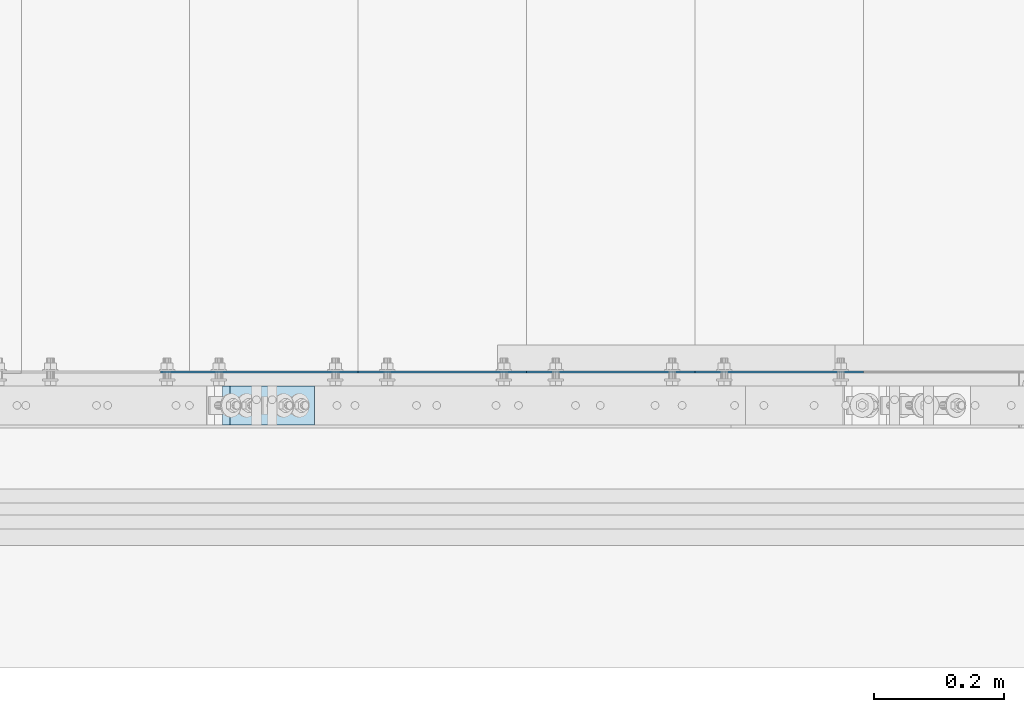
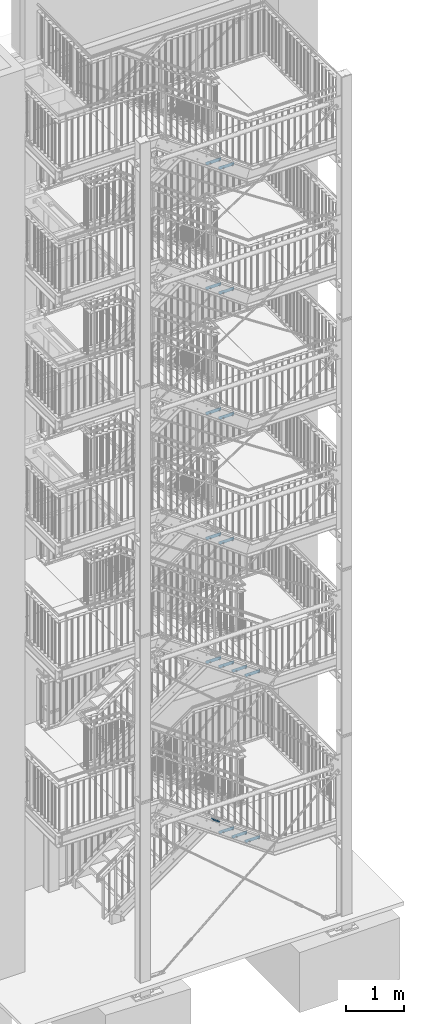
# One storey, part 171 of 831: 16 plates, 32 openings.
"""IFC2X3 building model written with IfcOpenShell, lengths in millimetres."""

from ifc_helpers import new_model, entity, si_unit, converted_unit, point, frame, frame_2d, origin, origin_with_axes, origin_2d_with_axis, place, context, project, spatial, polyline, circle_curve, line_curve, trimmed, segment, composite_curve, circle, outline, extrude, material, layer, layer_set, element, save


model = new_model("IFC2X3")

# Units and contexts
model_context = context("Model", 3, precision=1e-09, world=origin_with_axes())
ifc_project = project(units=[si_unit("LENGTHUNIT", "METRE", prefix="MILLI"), si_unit("AREAUNIT", "SQUARE_METRE"), si_unit("VOLUMEUNIT", "CUBIC_METRE"), converted_unit("PLANEANGLEUNIT", "DEGREE", entity("IfcPlaneAngleMeasure", 0.01745329), si_unit("PLANEANGLEUNIT", "RADIAN"), dimensions=[0, 0, 0, 0, 0, 0, 0])], contexts=[model_context])

# Site, building, storey
site_placement = place(None, origin_with_axes())
site = spatial("IfcSite", under=ifc_project, at=site_placement, Name="Site", CompositionType="ELEMENT")
building_placement = place(site_placement, origin_with_axes())
building = spatial("IfcBuilding", under=site, at=building_placement, Name="Struktur 1", CompositionType="ELEMENT")
storey_placement = place(building_placement, origin_with_axes())
storey = spatial("IfcBuildingStorey", under=building, at=storey_placement, Name="Default Storey", CompositionType="ELEMENT", Elevation=0.0)

# Plate, openings
ifc_material = material(Name="S235JR")
ifc_layer_1 = layer(ifc_material, 20.0)
ifc_layer_set_1 = layer_set([ifc_layer_1], Name="S235JR")
plate_1_placement = place(None, frame((6327.345176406, 4496.736971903, 3110.531994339), z_axis=(0.579973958, 0.0, 0.814635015), x_axis=(0.814635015, 0.0, -0.579973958)))
plate_1 = element("IfcPlate", 1, at=plate_1_placement, inside=storey, material=ifc_layer_set_1, Name="Plate#509", ObjectType="Plate#509", context=model_context, shape_type="SweptSolid", body=[
    extrude(outline(polyline([(0.0, 0.0), (160.0, 0.0), (160.0, 60.0), (0.0, 60.0), (0.0, 0.0)])), origin_with_axes(), (0.0, 0.0, 1.0), 20.0),
])
opening_1_placement = place(plate_1_placement, frame((38.0, 37.001, 20.5), z_axis=(0.0, 0.0, 1.0), x_axis=(-1.0, 0.0, 0.0)))
element("IfcOpeningElement", 2, at=opening_1_placement, cuts=plate_1, ObjectType="Opening", context=model_context, shape_type="SweptSolid", body=[
    extrude(outline(composite_curve([segment(trimmed(line_curve((0.0, 0.0), (1.0, 0.0), 16.0), [point((0.0, 0.0))], [point((16.0, 0.0))], True, "CARTESIAN"), True, "CONTINUOUS"), segment(trimmed(circle_curve(frame_2d((16.0, 7.001), x_axis=(1.0, 0.0)), 7.001), [point((16.0, 0.0))], [point((16.0, 14.002))], True, "CARTESIAN"), True, "CONTINUOUS"), segment(trimmed(line_curve((16.0, 14.002), (-1.0, 0.0), 16.0), [point((16.0, 14.002))], [point((0.0, 14.002))], True, "CARTESIAN"), True, "CONTINUOUS"), segment(trimmed(circle_curve(frame_2d((0.0, 7.001), x_axis=(1.0, 0.0)), 7.001), [point((0.0, 14.002))], [point((0.0, 0.0))], True, "CARTESIAN"), True, "CONTINUOUS")], self_intersect=False)), origin(), (0.0, 0.0, -1.0), 21.0),
])
opening_2_placement = place(plate_1_placement, frame((138.0, 37.001, 20.5), z_axis=(0.0, 0.0, 1.0), x_axis=(-1.0, 0.0, 0.0)))
element("IfcOpeningElement", 3, at=opening_2_placement, cuts=plate_1, ObjectType="Opening", context=model_context, shape_type="SweptSolid", body=[
    extrude(outline(composite_curve([segment(trimmed(line_curve((0.0, 0.0), (1.0, 0.0), 16.0), [point((0.0, 0.0))], [point((16.0, 0.0))], True, "CARTESIAN"), True, "CONTINUOUS"), segment(trimmed(circle_curve(frame_2d((16.0, 7.001), x_axis=(1.0, 0.0)), 7.001), [point((16.0, 0.0))], [point((16.0, 14.002))], True, "CARTESIAN"), True, "CONTINUOUS"), segment(trimmed(line_curve((16.0, 14.002), (-1.0, 0.0), 16.0), [point((16.0, 14.002))], [point((0.0, 14.002))], True, "CARTESIAN"), True, "CONTINUOUS"), segment(trimmed(circle_curve(frame_2d((0.0, 7.001), x_axis=(1.0, 0.0)), 7.001), [point((0.0, 14.002))], [point((0.0, 0.0))], True, "CARTESIAN"), True, "CONTINUOUS")], self_intersect=False)), origin(), (0.0, 0.0, -1.0), 21.0),
])

ifc_layer_2 = layer(ifc_material, 3.0)
ifc_layer_set_2 = layer_set([ifc_layer_2], Name="S235JR")
plate_2_placement = place(None, frame((6796.713402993, 4576.736971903, 8864.0), z_axis=(0.0, 1.0, 0.0), x_axis=(0.0, 0.0, -1.0)))
plate_2 = element("IfcPlate", 4, at=plate_2_placement, inside=storey, material=ifc_layer_set_2, Name="Grate_Step#2", ObjectType="Grate_Step#2", context=model_context, shape_type="SweptSolid", body=[
    extrude(outline(polyline([(0.0, 0.0), (70.0, 0.0), (70.0, 275.0), (40.0, 305.0), (0.0, 305.0), (0.0, 0.0)])), origin_with_axes(), (0.0, 0.0, 1.0), 3.0),
])
opening_3_placement = place(plate_2_placement, frame((55.0, 215.0, 3.5), z_axis=(0.0, 0.0, -1.0), x_axis=(0.0, 1.0, 0.0)))
element("IfcOpeningElement", 5, at=opening_3_placement, cuts=plate_2, ObjectType="Opening", context=model_context, shape_type="SweptSolid", body=[
    extrude(outline(composite_curve([segment(trimmed(line_curve((-9.5, -7.001), (1.0, 0.0), 19.0), [point((-9.5, -7.001))], [point((9.5, -7.001))], True, "CARTESIAN"), True, "CONTINUOUS"), segment(trimmed(circle_curve(frame_2d((9.5, 0.0), x_axis=(1.0, 0.0)), 7.001), [point((9.5, -7.001))], [point((9.5, 7.001))], True, "CARTESIAN"), True, "CONTINUOUS"), segment(trimmed(line_curve((9.5, 7.001), (-1.0, 0.0), 19.0), [point((9.5, 7.001))], [point((-9.5, 7.001))], True, "CARTESIAN"), True, "CONTINUOUS"), segment(trimmed(circle_curve(frame_2d((-9.5, 0.0), x_axis=(1.0, 0.0)), 7.001), [point((-9.5, 7.001))], [point((-9.5, -7.001))], True, "CARTESIAN"), True, "CONTINUOUS")], self_intersect=False)), origin(), (0.0, 0.0, 1.0), 4.0),
])
opening_4_placement = place(plate_2_placement, frame((55.0, 35.0, 3.5), z_axis=(0.0, 0.0, -1.0), x_axis=(0.0, 1.0, 0.0)))
element("IfcOpeningElement", 6, at=opening_4_placement, cuts=plate_2, ObjectType="Opening", context=model_context, shape_type="SweptSolid", body=[
    extrude(circle(Radius=7.001, at=origin_2d_with_axis()), origin(), (0.0, 0.0, 1.0), 4.0),
])

plate_3_placement = place(None, frame((6536.713402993, 4576.736971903, 9052.0), z_axis=(0.0, 1.0, 0.0), x_axis=(0.0, 0.0, -1.0)))
plate_3 = element("IfcPlate", 7, at=plate_3_placement, inside=storey, material=ifc_layer_set_2, Name="Grate_Step#9", ObjectType="Grate_Step#9", context=model_context, shape_type="SweptSolid", body=[
    extrude(outline(polyline([(0.0, 0.0), (70.0, 0.0), (70.0, 275.0), (40.0, 305.0), (0.0, 305.0), (0.0, 0.0)])), origin_with_axes(), (0.0, 0.0, 1.0), 3.0),
])
opening_5_placement = place(plate_3_placement, frame((55.0, 215.0, 3.5), z_axis=(0.0, 0.0, -1.0), x_axis=(0.0, 1.0, 0.0)))
element("IfcOpeningElement", 8, at=opening_5_placement, cuts=plate_3, ObjectType="Opening", context=model_context, shape_type="SweptSolid", body=[
    extrude(outline(composite_curve([segment(trimmed(line_curve((-9.5, -7.001), (1.0, 0.0), 19.0), [point((-9.5, -7.001))], [point((9.5, -7.001))], True, "CARTESIAN"), True, "CONTINUOUS"), segment(trimmed(circle_curve(frame_2d((9.5, 0.0), x_axis=(1.0, 0.0)), 7.001), [point((9.5, -7.001))], [point((9.5, 7.001))], True, "CARTESIAN"), True, "CONTINUOUS"), segment(trimmed(line_curve((9.5, 7.001), (-1.0, 0.0), 19.0), [point((9.5, 7.001))], [point((-9.5, 7.001))], True, "CARTESIAN"), True, "CONTINUOUS"), segment(trimmed(circle_curve(frame_2d((-9.5, 0.0), x_axis=(1.0, 0.0)), 7.001), [point((-9.5, 7.001))], [point((-9.5, -7.001))], True, "CARTESIAN"), True, "CONTINUOUS")], self_intersect=False)), origin(), (0.0, 0.0, 1.0), 4.0),
])
opening_6_placement = place(plate_3_placement, frame((55.0, 35.0, 3.5), z_axis=(0.0, 0.0, -1.0), x_axis=(0.0, 1.0, 0.0)))
element("IfcOpeningElement", 9, at=opening_6_placement, cuts=plate_3, ObjectType="Opening", context=model_context, shape_type="SweptSolid", body=[
    extrude(circle(Radius=7.001, at=origin_2d_with_axis()), origin(), (0.0, 0.0, 1.0), 4.0),
])

plate_4_placement = place(None, frame((6796.713402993, 4576.736971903, 11493.1428574), z_axis=(0.0, 1.0, 0.0), x_axis=(0.0, 0.0, -1.0)))
plate_4 = element("IfcPlate", 10, at=plate_4_placement, inside=storey, material=ifc_layer_set_2, Name="Grate_Step#2", ObjectType="Grate_Step#2", context=model_context, shape_type="SweptSolid", body=[
    extrude(outline(polyline([(0.0, 0.0), (70.0, 0.0), (70.0, 275.0), (40.0, 305.0), (0.0, 305.0), (0.0, 0.0)])), origin_with_axes(), (0.0, 0.0, 1.0), 3.0),
])
opening_7_placement = place(plate_4_placement, frame((55.0, 35.0, 3.5), z_axis=(0.0, 0.0, -1.0), x_axis=(0.0, 1.0, 0.0)))
element("IfcOpeningElement", 11, at=opening_7_placement, cuts=plate_4, ObjectType="Opening", context=model_context, shape_type="SweptSolid", body=[
    extrude(circle(Radius=7.001, at=origin_2d_with_axis()), origin(), (0.0, 0.0, 1.0), 4.0),
])
opening_8_placement = place(plate_4_placement, frame((55.0, 215.0, 3.5), z_axis=(0.0, 0.0, -1.0), x_axis=(0.0, 1.0, 0.0)))
element("IfcOpeningElement", 12, at=opening_8_placement, cuts=plate_4, ObjectType="Opening", context=model_context, shape_type="SweptSolid", body=[
    extrude(outline(composite_curve([segment(trimmed(line_curve((-9.5, -7.001), (1.0, 0.0), 19.0), [point((-9.5, -7.001))], [point((9.5, -7.001))], True, "CARTESIAN"), True, "CONTINUOUS"), segment(trimmed(circle_curve(frame_2d((9.5, 0.0), x_axis=(1.0, 0.0)), 7.001), [point((9.5, -7.001))], [point((9.5, 7.001))], True, "CARTESIAN"), True, "CONTINUOUS"), segment(trimmed(line_curve((9.5, 7.001), (-1.0, 0.0), 19.0), [point((9.5, 7.001))], [point((-9.5, 7.001))], True, "CARTESIAN"), True, "CONTINUOUS"), segment(trimmed(circle_curve(frame_2d((-9.5, 0.0), x_axis=(1.0, 0.0)), 7.001), [point((-9.5, 7.001))], [point((-9.5, -7.001))], True, "CARTESIAN"), True, "CONTINUOUS")], self_intersect=False)), origin(), (0.0, 0.0, 1.0), 4.0),
])

plate_5_placement = place(None, frame((6536.713402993, 4576.736971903, 11680.7857145), z_axis=(0.0, 1.0, 0.0), x_axis=(0.0, 0.0, -1.0)))
plate_5 = element("IfcPlate", 13, at=plate_5_placement, inside=storey, material=ifc_layer_set_2, Name="Grate_Step#9", ObjectType="Grate_Step#9", context=model_context, shape_type="SweptSolid", body=[
    extrude(outline(polyline([(0.0, 0.0), (70.0, 0.0), (70.0, 275.0), (40.0, 305.0), (0.0, 305.0), (0.0, 0.0)])), origin_with_axes(), (0.0, 0.0, 1.0), 3.0),
])
opening_9_placement = place(plate_5_placement, frame((55.0, 215.0, 3.5), z_axis=(0.0, 0.0, -1.0), x_axis=(0.0, 1.0, 0.0)))
element("IfcOpeningElement", 14, at=opening_9_placement, cuts=plate_5, ObjectType="Opening", context=model_context, shape_type="SweptSolid", body=[
    extrude(outline(composite_curve([segment(trimmed(line_curve((-9.5, -7.001), (1.0, 0.0), 19.0), [point((-9.5, -7.001))], [point((9.5, -7.001))], True, "CARTESIAN"), True, "CONTINUOUS"), segment(trimmed(circle_curve(frame_2d((9.5, 0.0), x_axis=(1.0, 0.0)), 7.001), [point((9.5, -7.001))], [point((9.5, 7.001))], True, "CARTESIAN"), True, "CONTINUOUS"), segment(trimmed(line_curve((9.5, 7.001), (-1.0, 0.0), 19.0), [point((9.5, 7.001))], [point((-9.5, 7.001))], True, "CARTESIAN"), True, "CONTINUOUS"), segment(trimmed(circle_curve(frame_2d((-9.5, 0.0), x_axis=(1.0, 0.0)), 7.001), [point((-9.5, 7.001))], [point((-9.5, -7.001))], True, "CARTESIAN"), True, "CONTINUOUS")], self_intersect=False)), origin(), (0.0, 0.0, 1.0), 4.0),
])
opening_10_placement = place(plate_5_placement, frame((55.0, 35.0, 3.5), z_axis=(0.0, 0.0, -1.0), x_axis=(0.0, 1.0, 0.0)))
element("IfcOpeningElement", 15, at=opening_10_placement, cuts=plate_5, ObjectType="Opening", context=model_context, shape_type="SweptSolid", body=[
    extrude(circle(Radius=7.001, at=origin_2d_with_axis()), origin(), (0.0, 0.0, 1.0), 4.0),
])

plate_6_placement = place(None, frame((6796.713402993, 4576.736971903, 14124.7142858), z_axis=(0.0, 1.0, 0.0), x_axis=(0.0, 0.0, -1.0)))
plate_6 = element("IfcPlate", 16, at=plate_6_placement, inside=storey, material=ifc_layer_set_2, Name="Grate_Step#2", ObjectType="Grate_Step#2", context=model_context, shape_type="SweptSolid", body=[
    extrude(outline(polyline([(0.0, 0.0), (70.0, 0.0), (70.0, 275.0), (40.0, 305.0), (0.0, 305.0), (0.0, 0.0)])), origin_with_axes(), (0.0, 0.0, 1.0), 3.0),
])
opening_11_placement = place(plate_6_placement, frame((55.0, 35.0, 3.5), z_axis=(0.0, 0.0, -1.0), x_axis=(0.0, 1.0, 0.0)))
element("IfcOpeningElement", 17, at=opening_11_placement, cuts=plate_6, ObjectType="Opening", context=model_context, shape_type="SweptSolid", body=[
    extrude(circle(Radius=7.001, at=origin_2d_with_axis()), origin(), (0.0, 0.0, 1.0), 4.0),
])
opening_12_placement = place(plate_6_placement, frame((55.0, 215.0, 3.5), z_axis=(0.0, 0.0, -1.0), x_axis=(0.0, 1.0, 0.0)))
element("IfcOpeningElement", 18, at=opening_12_placement, cuts=plate_6, ObjectType="Opening", context=model_context, shape_type="SweptSolid", body=[
    extrude(outline(composite_curve([segment(trimmed(line_curve((-9.5, -7.001), (1.0, 0.0), 19.0), [point((-9.5, -7.001))], [point((9.5, -7.001))], True, "CARTESIAN"), True, "CONTINUOUS"), segment(trimmed(circle_curve(frame_2d((9.5, 0.0), x_axis=(1.0, 0.0)), 7.001), [point((9.5, -7.001))], [point((9.5, 7.001))], True, "CARTESIAN"), True, "CONTINUOUS"), segment(trimmed(line_curve((9.5, 7.001), (-1.0, 0.0), 19.0), [point((9.5, 7.001))], [point((-9.5, 7.001))], True, "CARTESIAN"), True, "CONTINUOUS"), segment(trimmed(circle_curve(frame_2d((-9.5, 0.0), x_axis=(1.0, 0.0)), 7.001), [point((-9.5, 7.001))], [point((-9.5, -7.001))], True, "CARTESIAN"), True, "CONTINUOUS")], self_intersect=False)), origin(), (0.0, 0.0, 1.0), 4.0),
])

plate_7_placement = place(None, frame((6536.713402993, 4576.736971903, 14312.9285715), z_axis=(0.0, 1.0, 0.0), x_axis=(0.0, 0.0, -1.0)))
plate_7 = element("IfcPlate", 19, at=plate_7_placement, inside=storey, material=ifc_layer_set_2, Name="Grate_Step#9", ObjectType="Grate_Step#9", context=model_context, shape_type="SweptSolid", body=[
    extrude(outline(polyline([(0.0, 0.0), (70.0, 0.0), (70.0, 275.0), (40.0, 305.0), (0.0, 305.0), (0.0, 0.0)])), origin_with_axes(), (0.0, 0.0, 1.0), 3.0),
])
opening_13_placement = place(plate_7_placement, frame((55.0, 215.0, 3.5), z_axis=(0.0, 0.0, -1.0), x_axis=(0.0, 1.0, 0.0)))
element("IfcOpeningElement", 20, at=opening_13_placement, cuts=plate_7, ObjectType="Opening", context=model_context, shape_type="SweptSolid", body=[
    extrude(outline(composite_curve([segment(trimmed(line_curve((-9.5, -7.001), (1.0, 0.0), 19.0), [point((-9.5, -7.001))], [point((9.5, -7.001))], True, "CARTESIAN"), True, "CONTINUOUS"), segment(trimmed(circle_curve(frame_2d((9.5, 0.0), x_axis=(1.0, 0.0)), 7.001), [point((9.5, -7.001))], [point((9.5, 7.001))], True, "CARTESIAN"), True, "CONTINUOUS"), segment(trimmed(line_curve((9.5, 7.001), (-1.0, 0.0), 19.0), [point((9.5, 7.001))], [point((-9.5, 7.001))], True, "CARTESIAN"), True, "CONTINUOUS"), segment(trimmed(circle_curve(frame_2d((-9.5, 0.0), x_axis=(1.0, 0.0)), 7.001), [point((-9.5, 7.001))], [point((-9.5, -7.001))], True, "CARTESIAN"), True, "CONTINUOUS")], self_intersect=False)), origin(), (0.0, 0.0, 1.0), 4.0),
])
opening_14_placement = place(plate_7_placement, frame((55.0, 35.0, 3.5), z_axis=(0.0, 0.0, -1.0), x_axis=(0.0, 1.0, 0.0)))
element("IfcOpeningElement", 21, at=opening_14_placement, cuts=plate_7, ObjectType="Opening", context=model_context, shape_type="SweptSolid", body=[
    extrude(circle(Radius=7.001, at=origin_2d_with_axis()), origin(), (0.0, 0.0, 1.0), 4.0),
])

plate_8_placement = place(None, frame((6796.713402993, 4576.736971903, 16751.1428574), z_axis=(0.0, 1.0, 0.0), x_axis=(0.0, 0.0, -1.0)))
plate_8 = element("IfcPlate", 22, at=plate_8_placement, inside=storey, material=ifc_layer_set_2, Name="Grate_Step#2", ObjectType="Grate_Step#2", context=model_context, shape_type="SweptSolid", body=[
    extrude(outline(polyline([(0.0, 0.0), (70.0, 0.0), (70.0, 275.0), (40.0, 305.0), (0.0, 305.0), (0.0, 0.0)])), origin_with_axes(), (0.0, 0.0, 1.0), 3.0),
])
opening_15_placement = place(plate_8_placement, frame((55.0, 215.0, 3.5), z_axis=(0.0, 0.0, -1.0), x_axis=(0.0, 1.0, 0.0)))
element("IfcOpeningElement", 23, at=opening_15_placement, cuts=plate_8, ObjectType="Opening", context=model_context, shape_type="SweptSolid", body=[
    extrude(outline(composite_curve([segment(trimmed(line_curve((-9.5, -7.001), (1.0, 0.0), 19.0), [point((-9.5, -7.001))], [point((9.5, -7.001))], True, "CARTESIAN"), True, "CONTINUOUS"), segment(trimmed(circle_curve(frame_2d((9.5, 0.0), x_axis=(1.0, 0.0)), 7.001), [point((9.5, -7.001))], [point((9.5, 7.001))], True, "CARTESIAN"), True, "CONTINUOUS"), segment(trimmed(line_curve((9.5, 7.001), (-1.0, 0.0), 19.0), [point((9.5, 7.001))], [point((-9.5, 7.001))], True, "CARTESIAN"), True, "CONTINUOUS"), segment(trimmed(circle_curve(frame_2d((-9.5, 0.0), x_axis=(1.0, 0.0)), 7.001), [point((-9.5, 7.001))], [point((-9.5, -7.001))], True, "CARTESIAN"), True, "CONTINUOUS")], self_intersect=False)), origin(), (0.0, 0.0, 1.0), 4.0),
])
opening_16_placement = place(plate_8_placement, frame((55.0, 35.0, 3.5), z_axis=(0.0, 0.0, -1.0), x_axis=(0.0, 1.0, 0.0)))
element("IfcOpeningElement", 24, at=opening_16_placement, cuts=plate_8, ObjectType="Opening", context=model_context, shape_type="SweptSolid", body=[
    extrude(circle(Radius=7.001, at=origin_2d_with_axis()), origin(), (0.0, 0.0, 1.0), 4.0),
])

plate_9_placement = place(None, frame((6536.713402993, 4576.736971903, 16938.2857145), z_axis=(0.0, 1.0, 0.0), x_axis=(0.0, 0.0, -1.0)))
plate_9 = element("IfcPlate", 25, at=plate_9_placement, inside=storey, material=ifc_layer_set_2, Name="Grate_Step#9", ObjectType="Grate_Step#9", context=model_context, shape_type="SweptSolid", body=[
    extrude(outline(polyline([(0.0, 0.0), (70.0, 0.0), (70.0, 275.0), (40.0, 305.0), (0.0, 305.0), (0.0, 0.0)])), origin_with_axes(), (0.0, 0.0, 1.0), 3.0),
])
opening_17_placement = place(plate_9_placement, frame((55.0, 35.0, 3.5), z_axis=(0.0, 0.0, -1.0), x_axis=(0.0, 1.0, 0.0)))
element("IfcOpeningElement", 26, at=opening_17_placement, cuts=plate_9, ObjectType="Opening", context=model_context, shape_type="SweptSolid", body=[
    extrude(circle(Radius=7.001, at=origin_2d_with_axis()), origin(), (0.0, 0.0, 1.0), 4.0),
])
opening_18_placement = place(plate_9_placement, frame((55.0, 215.0, 3.5), z_axis=(0.0, 0.0, -1.0), x_axis=(0.0, 1.0, 0.0)))
element("IfcOpeningElement", 27, at=opening_18_placement, cuts=plate_9, ObjectType="Opening", context=model_context, shape_type="SweptSolid", body=[
    extrude(outline(composite_curve([segment(trimmed(line_curve((-9.5, -7.001), (1.0, 0.0), 19.0), [point((-9.5, -7.001))], [point((9.5, -7.001))], True, "CARTESIAN"), True, "CONTINUOUS"), segment(trimmed(circle_curve(frame_2d((9.5, 0.0), x_axis=(1.0, 0.0)), 7.001), [point((9.5, -7.001))], [point((9.5, 7.001))], True, "CARTESIAN"), True, "CONTINUOUS"), segment(trimmed(line_curve((9.5, 7.001), (-1.0, 0.0), 19.0), [point((9.5, 7.001))], [point((-9.5, 7.001))], True, "CARTESIAN"), True, "CONTINUOUS"), segment(trimmed(circle_curve(frame_2d((-9.5, 0.0), x_axis=(1.0, 0.0)), 7.001), [point((-9.5, 7.001))], [point((-9.5, -7.001))], True, "CARTESIAN"), True, "CONTINUOUS")], self_intersect=False)), origin(), (0.0, 0.0, 1.0), 4.0),
])

plate_10_placement = place(None, frame((6536.713402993, 4576.736971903, 6446.0526315), z_axis=(0.0, 1.0, 0.0), x_axis=(0.0, 0.0, -1.0)))
plate_10 = element("IfcPlate", 28, at=plate_10_placement, inside=storey, material=ifc_layer_set_2, Name="Grate_Step#23", ObjectType="Grate_Step#23", context=model_context, shape_type="SweptSolid", body=[
    extrude(outline(polyline([(0.0, 0.0), (70.0, 0.0), (70.0, 275.0), (40.0, 305.0), (0.0, 305.0), (0.0, 0.0)])), origin_with_axes(), (0.0, 0.0, 1.0), 3.0),
])
opening_19_placement = place(plate_10_placement, frame((55.0, 35.0, 3.5), z_axis=(0.0, 0.0, -1.0), x_axis=(0.0, 1.0, 0.0)))
element("IfcOpeningElement", 29, at=opening_19_placement, cuts=plate_10, ObjectType="Opening", context=model_context, shape_type="SweptSolid", body=[
    extrude(circle(Radius=7.001, at=origin_2d_with_axis()), origin(), (0.0, 0.0, 1.0), 4.0),
])
opening_20_placement = place(plate_10_placement, frame((55.0, 215.0, 3.5), z_axis=(0.0, 0.0, -1.0), x_axis=(0.0, 1.0, 0.0)))
element("IfcOpeningElement", 30, at=opening_20_placement, cuts=plate_10, ObjectType="Opening", context=model_context, shape_type="SweptSolid", body=[
    extrude(outline(composite_curve([segment(trimmed(line_curve((-9.5, -7.001), (1.0, 0.0), 19.0), [point((-9.5, -7.001))], [point((9.5, -7.001))], True, "CARTESIAN"), True, "CONTINUOUS"), segment(trimmed(circle_curve(frame_2d((9.5, 0.0), x_axis=(1.0, 0.0)), 7.001), [point((9.5, -7.001))], [point((9.5, 7.001))], True, "CARTESIAN"), True, "CONTINUOUS"), segment(trimmed(line_curve((9.5, 7.001), (-1.0, 0.0), 19.0), [point((9.5, 7.001))], [point((-9.5, 7.001))], True, "CARTESIAN"), True, "CONTINUOUS"), segment(trimmed(circle_curve(frame_2d((-9.5, 0.0), x_axis=(1.0, 0.0)), 7.001), [point((-9.5, 7.001))], [point((-9.5, -7.001))], True, "CARTESIAN"), True, "CONTINUOUS")], self_intersect=False)), origin(), (0.0, 0.0, 1.0), 4.0),
])

plate_11_placement = place(None, frame((7316.713402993, 4576.736971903, 5897.6842104), z_axis=(0.0, 1.0, 0.0), x_axis=(0.0, 0.0, -1.0)))
plate_11 = element("IfcPlate", 31, at=plate_11_placement, inside=storey, material=ifc_layer_set_2, Name="Grate_Step#2", ObjectType="Grate_Step#2", context=model_context, shape_type="SweptSolid", body=[
    extrude(outline(polyline([(0.0, 0.0), (70.0, 0.0), (70.0, 275.0), (40.0, 305.0), (0.0, 305.0), (0.0, 0.0)])), origin_with_axes(), (0.0, 0.0, 1.0), 3.0),
])
opening_21_placement = place(plate_11_placement, frame((55.0, 35.0, 3.5), z_axis=(0.0, 0.0, -1.0), x_axis=(0.0, 1.0, 0.0)))
element("IfcOpeningElement", 32, at=opening_21_placement, cuts=plate_11, ObjectType="Opening", context=model_context, shape_type="SweptSolid", body=[
    extrude(circle(Radius=7.001, at=origin_2d_with_axis()), origin(), (0.0, 0.0, 1.0), 4.0),
])
opening_22_placement = place(plate_11_placement, frame((55.0, 215.0, 3.5), z_axis=(0.0, 0.0, -1.0), x_axis=(0.0, 1.0, 0.0)))
element("IfcOpeningElement", 33, at=opening_22_placement, cuts=plate_11, ObjectType="Opening", context=model_context, shape_type="SweptSolid", body=[
    extrude(outline(composite_curve([segment(trimmed(line_curve((-9.5, -7.001), (1.0, 0.0), 19.0), [point((-9.5, -7.001))], [point((9.5, -7.001))], True, "CARTESIAN"), True, "CONTINUOUS"), segment(trimmed(circle_curve(frame_2d((9.5, 0.0), x_axis=(1.0, 0.0)), 7.001), [point((9.5, -7.001))], [point((9.5, 7.001))], True, "CARTESIAN"), True, "CONTINUOUS"), segment(trimmed(line_curve((9.5, 7.001), (-1.0, 0.0), 19.0), [point((9.5, 7.001))], [point((-9.5, 7.001))], True, "CARTESIAN"), True, "CONTINUOUS"), segment(trimmed(circle_curve(frame_2d((-9.5, 0.0), x_axis=(1.0, 0.0)), 7.001), [point((-9.5, 7.001))], [point((-9.5, -7.001))], True, "CARTESIAN"), True, "CONTINUOUS")], self_intersect=False)), origin(), (0.0, 0.0, 1.0), 4.0),
])

plate_12_placement = place(None, frame((6796.713402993, 4576.736971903, 2776.3684208), z_axis=(0.0, 1.0, 0.0), x_axis=(0.0, 0.0, -1.0)))
plate_12 = element("IfcPlate", 34, at=plate_12_placement, inside=storey, material=ifc_layer_set_2, Name="Grate_Step#16", ObjectType="Grate_Step#16", context=model_context, shape_type="SweptSolid", body=[
    extrude(outline(polyline([(0.0, 0.0), (70.0, 0.0), (70.0, 275.0), (40.0, 305.0), (0.0, 305.0), (0.0, 0.0)])), origin_with_axes(), (0.0, 0.0, 1.0), 3.0),
])
opening_23_placement = place(plate_12_placement, frame((55.0, 215.0, 3.5), z_axis=(0.0, 0.0, -1.0), x_axis=(0.0, 1.0, 0.0)))
element("IfcOpeningElement", 35, at=opening_23_placement, cuts=plate_12, ObjectType="Opening", context=model_context, shape_type="SweptSolid", body=[
    extrude(outline(composite_curve([segment(trimmed(line_curve((-9.5, -7.001), (1.0, 0.0), 19.0), [point((-9.5, -7.001))], [point((9.5, -7.001))], True, "CARTESIAN"), True, "CONTINUOUS"), segment(trimmed(circle_curve(frame_2d((9.5, 0.0), x_axis=(1.0, 0.0)), 7.001), [point((9.5, -7.001))], [point((9.5, 7.001))], True, "CARTESIAN"), True, "CONTINUOUS"), segment(trimmed(line_curve((9.5, 7.001), (-1.0, 0.0), 19.0), [point((9.5, 7.001))], [point((-9.5, 7.001))], True, "CARTESIAN"), True, "CONTINUOUS"), segment(trimmed(circle_curve(frame_2d((-9.5, 0.0), x_axis=(1.0, 0.0)), 7.001), [point((-9.5, 7.001))], [point((-9.5, -7.001))], True, "CARTESIAN"), True, "CONTINUOUS")], self_intersect=False)), origin(), (0.0, 0.0, 1.0), 4.0),
])
opening_24_placement = place(plate_12_placement, frame((55.0, 35.0, 3.5), z_axis=(0.0, 0.0, -1.0), x_axis=(0.0, 1.0, 0.0)))
element("IfcOpeningElement", 36, at=opening_24_placement, cuts=plate_12, ObjectType="Opening", context=model_context, shape_type="SweptSolid", body=[
    extrude(circle(Radius=7.001, at=origin_2d_with_axis()), origin(), (0.0, 0.0, 1.0), 4.0),
])

plate_13_placement = place(None, frame((7316.713402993, 4576.736971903, 2406.1578944), z_axis=(0.0, 1.0, 0.0), x_axis=(0.0, 0.0, -1.0)))
plate_13 = element("IfcPlate", 37, at=plate_13_placement, inside=storey, material=ifc_layer_set_2, Name="Grate_Step#2", ObjectType="Grate_Step#2", context=model_context, shape_type="SweptSolid", body=[
    extrude(outline(polyline([(0.0, 0.0), (70.0, 0.0), (70.0, 275.0), (40.0, 305.0), (0.0, 305.0), (0.0, 0.0)])), origin_with_axes(), (0.0, 0.0, 1.0), 3.0),
])
opening_25_placement = place(plate_13_placement, frame((55.0, 215.0, 3.5), z_axis=(0.0, 0.0, -1.0), x_axis=(0.0, 1.0, 0.0)))
element("IfcOpeningElement", 38, at=opening_25_placement, cuts=plate_13, ObjectType="Opening", context=model_context, shape_type="SweptSolid", body=[
    extrude(outline(composite_curve([segment(trimmed(line_curve((-9.5, -7.001), (1.0, 0.0), 19.0), [point((-9.5, -7.001))], [point((9.5, -7.001))], True, "CARTESIAN"), True, "CONTINUOUS"), segment(trimmed(circle_curve(frame_2d((9.5, 0.0), x_axis=(1.0, 0.0)), 7.001), [point((9.5, -7.001))], [point((9.5, 7.001))], True, "CARTESIAN"), True, "CONTINUOUS"), segment(trimmed(line_curve((9.5, 7.001), (-1.0, 0.0), 19.0), [point((9.5, 7.001))], [point((-9.5, 7.001))], True, "CARTESIAN"), True, "CONTINUOUS"), segment(trimmed(circle_curve(frame_2d((-9.5, 0.0), x_axis=(1.0, 0.0)), 7.001), [point((-9.5, 7.001))], [point((-9.5, -7.001))], True, "CARTESIAN"), True, "CONTINUOUS")], self_intersect=False)), origin(), (0.0, 0.0, 1.0), 4.0),
])
opening_26_placement = place(plate_13_placement, frame((55.0, 35.0, 3.5), z_axis=(0.0, 0.0, -1.0), x_axis=(0.0, 1.0, 0.0)))
element("IfcOpeningElement", 39, at=opening_26_placement, cuts=plate_13, ObjectType="Opening", context=model_context, shape_type="SweptSolid", body=[
    extrude(circle(Radius=7.001, at=origin_2d_with_axis()), origin(), (0.0, 0.0, 1.0), 4.0),
])

plate_14_placement = place(None, frame((7056.713402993, 4576.736971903, 6080.4736841), z_axis=(0.0, 1.0, 0.0), x_axis=(0.0, 0.0, -1.0)))
plate_14 = element("IfcPlate", 40, at=plate_14_placement, inside=storey, material=ifc_layer_set_2, Name="Grate_Step#9", ObjectType="Grate_Step#9", context=model_context, shape_type="SweptSolid", body=[
    extrude(outline(polyline([(0.0, 0.0), (70.0, 0.0), (70.0, 275.0), (40.0, 305.0), (0.0, 305.0), (0.0, 0.0)])), origin_with_axes(), (0.0, 0.0, 1.0), 3.0),
])
opening_27_placement = place(plate_14_placement, frame((55.0, 215.0, 3.5), z_axis=(0.0, 0.0, -1.0), x_axis=(0.0, 1.0, 0.0)))
element("IfcOpeningElement", 41, at=opening_27_placement, cuts=plate_14, ObjectType="Opening", context=model_context, shape_type="SweptSolid", body=[
    extrude(outline(composite_curve([segment(trimmed(line_curve((-9.5, -7.001), (1.0, 0.0), 19.0), [point((-9.5, -7.001))], [point((9.5, -7.001))], True, "CARTESIAN"), True, "CONTINUOUS"), segment(trimmed(circle_curve(frame_2d((9.5, 0.0), x_axis=(1.0, 0.0)), 7.001), [point((9.5, -7.001))], [point((9.5, 7.001))], True, "CARTESIAN"), True, "CONTINUOUS"), segment(trimmed(line_curve((9.5, 7.001), (-1.0, 0.0), 19.0), [point((9.5, 7.001))], [point((-9.5, 7.001))], True, "CARTESIAN"), True, "CONTINUOUS"), segment(trimmed(circle_curve(frame_2d((-9.5, 0.0), x_axis=(1.0, 0.0)), 7.001), [point((-9.5, 7.001))], [point((-9.5, -7.001))], True, "CARTESIAN"), True, "CONTINUOUS")], self_intersect=False)), origin(), (0.0, 0.0, 1.0), 4.0),
])
opening_28_placement = place(plate_14_placement, frame((55.0, 35.0, 3.5), z_axis=(0.0, 0.0, -1.0), x_axis=(0.0, 1.0, 0.0)))
element("IfcOpeningElement", 42, at=opening_28_placement, cuts=plate_14, ObjectType="Opening", context=model_context, shape_type="SweptSolid", body=[
    extrude(circle(Radius=7.001, at=origin_2d_with_axis()), origin(), (0.0, 0.0, 1.0), 4.0),
])

plate_15_placement = place(None, frame((7056.713402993, 4576.736971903, 2591.2631576), z_axis=(0.0, 1.0, 0.0), x_axis=(0.0, 0.0, -1.0)))
plate_15 = element("IfcPlate", 43, at=plate_15_placement, inside=storey, material=ifc_layer_set_2, Name="Grate_Step#9", ObjectType="Grate_Step#9", context=model_context, shape_type="SweptSolid", body=[
    extrude(outline(polyline([(0.0, 0.0), (70.0, 0.0), (70.0, 275.0), (40.0, 305.0), (0.0, 305.0), (0.0, 0.0)])), origin_with_axes(), (0.0, 0.0, 1.0), 3.0),
])
opening_29_placement = place(plate_15_placement, frame((55.0, 215.0, 3.5), z_axis=(0.0, 0.0, -1.0), x_axis=(0.0, 1.0, 0.0)))
element("IfcOpeningElement", 44, at=opening_29_placement, cuts=plate_15, ObjectType="Opening", context=model_context, shape_type="SweptSolid", body=[
    extrude(outline(composite_curve([segment(trimmed(line_curve((-9.5, -7.001), (1.0, 0.0), 19.0), [point((-9.5, -7.001))], [point((9.5, -7.001))], True, "CARTESIAN"), True, "CONTINUOUS"), segment(trimmed(circle_curve(frame_2d((9.5, 0.0), x_axis=(1.0, 0.0)), 7.001), [point((9.5, -7.001))], [point((9.5, 7.001))], True, "CARTESIAN"), True, "CONTINUOUS"), segment(trimmed(line_curve((9.5, 7.001), (-1.0, 0.0), 19.0), [point((9.5, 7.001))], [point((-9.5, 7.001))], True, "CARTESIAN"), True, "CONTINUOUS"), segment(trimmed(circle_curve(frame_2d((-9.5, 0.0), x_axis=(1.0, 0.0)), 7.001), [point((-9.5, 7.001))], [point((-9.5, -7.001))], True, "CARTESIAN"), True, "CONTINUOUS")], self_intersect=False)), origin(), (0.0, 0.0, 1.0), 4.0),
])
opening_30_placement = place(plate_15_placement, frame((55.0, 35.0, 3.5), z_axis=(0.0, 0.0, -1.0), x_axis=(0.0, 1.0, 0.0)))
element("IfcOpeningElement", 45, at=opening_30_placement, cuts=plate_15, ObjectType="Opening", context=model_context, shape_type="SweptSolid", body=[
    extrude(circle(Radius=7.001, at=origin_2d_with_axis()), origin(), (0.0, 0.0, 1.0), 4.0),
])

plate_16_placement = place(None, frame((6796.713402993, 4576.736971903, 6263.2631578), z_axis=(0.0, 1.0, 0.0), x_axis=(0.0, 0.0, -1.0)))
plate_16 = element("IfcPlate", 46, at=plate_16_placement, inside=storey, material=ifc_layer_set_2, Name="Grate_Step#16", ObjectType="Grate_Step#16", context=model_context, shape_type="SweptSolid", body=[
    extrude(outline(polyline([(0.0, 0.0), (70.0, 0.0), (70.0, 275.0), (40.0, 305.0), (0.0, 305.0), (0.0, 0.0)])), origin_with_axes(), (0.0, 0.0, 1.0), 3.0),
])
opening_31_placement = place(plate_16_placement, frame((55.0, 35.0, 3.5), z_axis=(0.0, 0.0, -1.0), x_axis=(0.0, 1.0, 0.0)))
element("IfcOpeningElement", 47, at=opening_31_placement, cuts=plate_16, ObjectType="Opening", context=model_context, shape_type="SweptSolid", body=[
    extrude(circle(Radius=7.001, at=origin_2d_with_axis()), origin(), (0.0, 0.0, 1.0), 4.0),
])
opening_32_placement = place(plate_16_placement, frame((55.0, 215.0, 3.5), z_axis=(0.0, 0.0, -1.0), x_axis=(0.0, 1.0, 0.0)))
element("IfcOpeningElement", 48, at=opening_32_placement, cuts=plate_16, ObjectType="Opening", context=model_context, shape_type="SweptSolid", body=[
    extrude(outline(composite_curve([segment(trimmed(line_curve((-9.5, -7.001), (1.0, 0.0), 19.0), [point((-9.5, -7.001))], [point((9.5, -7.001))], True, "CARTESIAN"), True, "CONTINUOUS"), segment(trimmed(circle_curve(frame_2d((9.5, 0.0), x_axis=(1.0, 0.0)), 7.001), [point((9.5, -7.001))], [point((9.5, 7.001))], True, "CARTESIAN"), True, "CONTINUOUS"), segment(trimmed(line_curve((9.5, 7.001), (-1.0, 0.0), 19.0), [point((9.5, 7.001))], [point((-9.5, 7.001))], True, "CARTESIAN"), True, "CONTINUOUS"), segment(trimmed(circle_curve(frame_2d((-9.5, 0.0), x_axis=(1.0, 0.0)), 7.001), [point((-9.5, 7.001))], [point((-9.5, -7.001))], True, "CARTESIAN"), True, "CONTINUOUS")], self_intersect=False)), origin(), (0.0, 0.0, 1.0), 4.0),
])

save(model, "model.ifc")
